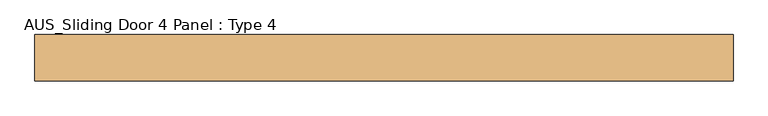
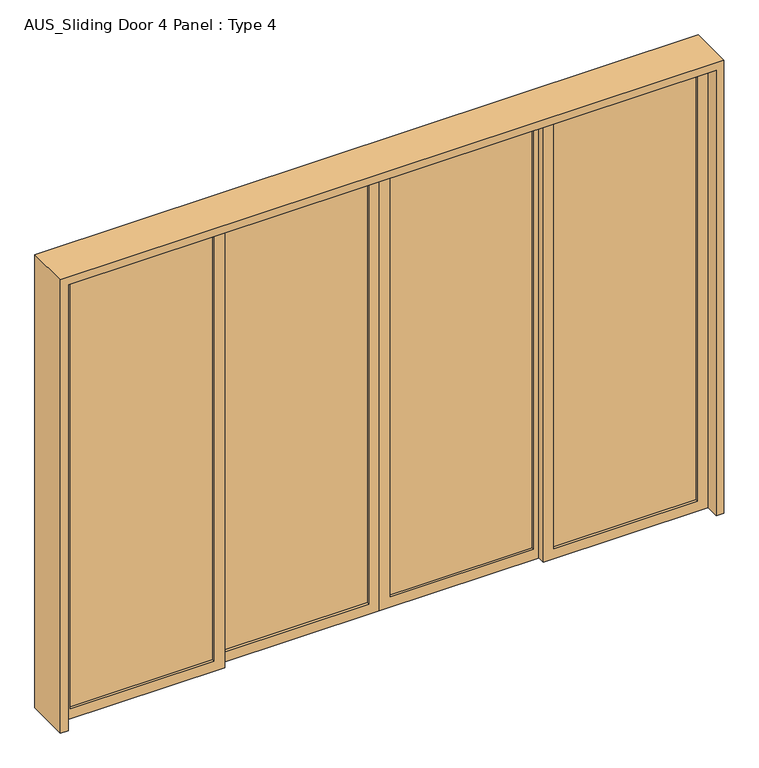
"""IFC4 building model written with IfcOpenShell, lengths in millimetres: door geometry, AUS_Sliding Door 4 Panel : Type 4."""

import ifcopenshell
import ifcopenshell.guid

model = None  # the IFC model being written
_history = None  # IfcOwnerHistory: only IFC2X3 demands one
_inside = {}  # id of a spatial element -> (the spatial element, [elements in it])
_under = {}  # id of a project, library or spatial element -> (it, [spatial elements below it])
_declared = {}  # id of a project -> (the project, [libraries it declares])
_typed = {}  # id of a type object -> (the type object, [elements of that type])
_made_of = {}  # id of a material, layer set ... -> (it, [elements and type objects made of it])


def new_model(schema):
    """Start an empty IFC model of exactly this schema.

    Asked for "IFC4X3", IfcOpenShell would pick the latest addendum, in which some entities
    have other attributes; the version numbers below select the first issue.
    IFC2X3 requires an IfcOwnerHistory on every rooted entity: one is made here for all.
    """
    global model, _history
    if schema == "IFC4X3":
        model = ifcopenshell.file(schema_version=(4, 3, 0, 0))
    else:
        model = ifcopenshell.file(schema=schema)
    _inside.clear()
    _under.clear()
    _declared.clear()
    _typed.clear()
    _made_of.clear()
    _history = None
    if model.schema == "IFC2X3":
        org = make("IfcOrganization", Name="unknown")
        user = make(
            "IfcPersonAndOrganization",
            ThePerson=make("IfcPerson", FamilyName="unknown"),
            TheOrganization=org,
        )
        app = make(
            "IfcApplication",
            ApplicationDeveloper=org,
            Version="unknown",
            ApplicationFullName="unknown",
            ApplicationIdentifier="unknown",
        )
        _history = make(
            "IfcOwnerHistory",
            OwningUser=user,
            OwningApplication=app,
            ChangeAction="ADDED",
            CreationDate=0,
        )
    return model


def make(cls, **values):
    """One entity of the class cls with the attributes given. An attribute that is None is left unset."""
    return model.create_entity(
        cls, **{name: value for name, value in values.items() if value is not None}
    )


def rooted(cls, **values):
    """An entity with a GlobalId (a new one), such as an element, a storey or a relation."""
    return make(cls, GlobalId=ifcopenshell.guid.new(), OwnerHistory=_history, **values)


def si_unit(unit_type, name, prefix=None):
    """IfcSIUnit, for example si_unit("LENGTHUNIT", "METRE", prefix="MILLI")."""
    return make("IfcSIUnit", UnitType=unit_type, Prefix=prefix, Name=name)


def assignment(units):
    """IfcUnitAssignment: the units of a project."""
    return None if units is None else make("IfcUnitAssignment", Units=units)


def point(xyz):
    """IfcCartesianPoint."""
    return None if xyz is None else make("IfcCartesianPoint", Coordinates=xyz)


def direction(xyz):
    """IfcDirection."""
    return None if xyz is None else make("IfcDirection", DirectionRatios=xyz)


def frame(location, z_axis=None, x_axis=None):
    """IfcAxis2Placement3D, a coordinate frame: its origin and axes. An axis left out is left unset."""
    return make(
        "IfcAxis2Placement3D",
        Location=point(location),
        Axis=direction(z_axis),
        RefDirection=direction(x_axis),
    )


def origin():
    """The frame at (0, 0, 0) with its axes left unset."""
    return frame((0.0, 0.0, 0.0))


def place(relative_to, where):
    """IfcLocalPlacement: puts the frame where relative to a parent placement (None: the world)."""
    return make(
        "IfcLocalPlacement", PlacementRelTo=relative_to, RelativePlacement=where
    )


def context(
    kind, dimensions, precision=None, world=None, true_north=None, identifier=None
):
    """IfcGeometricRepresentationContext, for example the 3D "Model" context."""
    return make(
        "IfcGeometricRepresentationContext",
        ContextIdentifier=identifier,
        ContextType=kind,
        CoordinateSpaceDimension=dimensions,
        Precision=precision,
        WorldCoordinateSystem=world,
        TrueNorth=true_north,
    )


def project(units=None, contexts=None):
    """IfcProject with its units and contexts."""
    return rooted(
        "IfcProject",
        Name="project",
        RepresentationContexts=contexts,
        UnitsInContext=assignment(units),
    )


def spatial(cls, under=None, at=None, **own):
    """A site, building, storey or space (cls), placed at a placement, below another one or the project."""
    s = rooted(cls, ObjectPlacement=at, **own)
    if under is not None:
        _under.setdefault(under.id(), (under, []))[1].append(s)
    return s


def polyline(points):
    """IfcPolyline through the points."""
    return make("IfcPolyline", Points=[point(p) for p in points])


def outline(outer, holes=None, kind="AREA"):
    """IfcArbitraryClosedProfileDef: a profile drawn as a closed curve; with holes, ...WithVoids."""
    if holes is None:
        return make("IfcArbitraryClosedProfileDef", ProfileType=kind, OuterCurve=outer)
    return make(
        "IfcArbitraryProfileDefWithVoids",
        ProfileType=kind,
        OuterCurve=outer,
        InnerCurves=holes,
    )


def extrude(swept, where, along, depth):
    """IfcExtrudedAreaSolid: the profile swept, set in the frame where, extruded along a direction by depth."""
    return make(
        "IfcExtrudedAreaSolid",
        SweptArea=swept,
        Position=where,
        ExtrudedDirection=direction(along),
        Depth=depth,
    )


def shape(context_of_items, identifier, shape_type, items):
    """IfcShapeRepresentation: the items that make up one representation, for example the "Body"."""
    return make(
        "IfcShapeRepresentation",
        ContextOfItems=context_of_items,
        RepresentationIdentifier=identifier,
        RepresentationType=shape_type,
        Items=items,
    )


def source(mapping_origin, context_of_items, identifier, shape_type, items):
    """IfcRepresentationMap: a shape defined once, which mapped items show again and again."""
    return make(
        "IfcRepresentationMap",
        MappingOrigin=mapping_origin,
        MappedRepresentation=shape(context_of_items, identifier, shape_type, items),
    )


def transform(
    local_origin,
    x_axis=None,
    y_axis=None,
    z_axis=None,
    scale=None,
    scale2=None,
    scale3=None,
    uniform=True,
):
    """IfcCartesianTransformationOperator3D, or its non-uniform kind. x_axis, y_axis, z_axis: its Axis1, 2, 3."""
    if uniform:
        return make(
            "IfcCartesianTransformationOperator3D",
            Axis1=direction(x_axis),
            Axis2=direction(y_axis),
            LocalOrigin=point(local_origin),
            Scale=scale,
            Axis3=direction(z_axis),
        )
    return make(
        "IfcCartesianTransformationOperator3DnonUniform",
        Axis1=direction(x_axis),
        Axis2=direction(y_axis),
        LocalOrigin=point(local_origin),
        Scale=scale,
        Axis3=direction(z_axis),
        Scale2=scale2,
        Scale3=scale3,
    )


def mapped(mapping_source, mapping_target):
    """IfcMappedItem: shows the shape of a source again, moved by a transform."""
    return make(
        "IfcMappedItem", MappingSource=mapping_source, MappingTarget=mapping_target
    )


def made_of(thing, what):
    """Note that an element or type object is made of a material, layer set ...; save() writes the relation."""
    if what is not None:
        _made_of.setdefault(what.id(), (what, []))[1].append(thing)
    return thing


def element(
    cls,
    number,
    at=None,
    inside=None,
    cuts=None,
    type_object=None,
    material=None,
    context=None,
    identifier="Body",
    shape_type=None,
    held_by="IfcProductDefinitionShape",
    body=None,
    shapes=None,
    **own,
):
    """One element of the class cls, such as IfcWall. Its Tag is "e" and its number.

    at: its placement. inside: the storey or other place that contains it. cuts: it is an
    opening in that element (IfcRelVoidsElement). A single representation is given by context,
    identifier, shape_type and body (its items); several are given by shapes. held_by: the class
    of the entity that holds the representations. save() writes the other relations.
    """
    e = rooted(cls, Tag="e%d" % number, ObjectPlacement=at, **own)
    if body is not None:
        shapes = [shape(context, identifier, shape_type, body)]
    if shapes is not None:
        e.Representation = make(held_by, Representations=shapes)
    if inside is not None:
        _inside.setdefault(inside.id(), (inside, []))[1].append(e)
    if cuts is not None:
        rooted(
            "IfcRelVoidsElement", RelatingBuildingElement=cuts, RelatedOpeningElement=e
        )
    if type_object is not None:
        _typed.setdefault(type_object.id(), (type_object, []))[1].append(e)
    return made_of(e, material)


def aggregate(whole, parts):
    """IfcRelAggregates: a whole, such as a stair, and the parts it consists of."""
    return rooted("IfcRelAggregates", RelatingObject=whole, RelatedObjects=parts)


def save(model, path):
    """Write the relations noted so far, then the file.

    IfcRelAggregates (storeys below a building ...), IfcRelContainedInSpatialStructure (elements
    in a storey), IfcRelDefinesByType, IfcRelAssociatesMaterial and IfcRelDeclares: one each for
    every whole, place, type object, material and project.
    """
    for whole, parts in _under.values():
        aggregate(whole, parts)
    for where, things in _inside.values():
        rooted(
            "IfcRelContainedInSpatialStructure",
            RelatedElements=things,
            RelatingStructure=where,
        )
    for kind, things in _typed.values():
        rooted("IfcRelDefinesByType", RelatedObjects=things, RelatingType=kind)
    for what, things in _made_of.values():
        rooted("IfcRelAssociatesMaterial", RelatedObjects=things, RelatingMaterial=what)
    for by, libraries in _declared.values():
        rooted("IfcRelDeclares", RelatingContext=by, RelatedDefinitions=libraries)
    model.write(path)


def aus_sliding_door_4_panel_type_4_3ae0efee(model_context):
    return source(origin(), model_context, "Body", "SweptSolid", [
        extrude(outline(polyline([(0.0, 1762.1580012), (2438.4, 1762.1580012), (2438.4, 910.2080012), (0.0, 910.2080012), (0.0, 1762.1580012)]), holes=[polyline([(55.0, 1707.1580012), (55.0, 965.2080012), (2383.4, 965.2080012), (2383.4, 1707.1580012), (55.0, 1707.1580012)])]), frame((0.0, -40.0, 0.0), z_axis=(0.0, 1.0, 0.0), x_axis=(0.0, 0.0, 1.0)), (0.0, 0.0, 1.0), 40.0),
        extrude(outline(polyline([(1707.1580012, -13.3333333), (1707.1580012, -26.6666667), (965.2080012, -26.6666667), (965.2080012, -13.3333333), (1707.1580012, -13.3333333)])), frame((0.0, 0.0, 55.0), z_axis=(0.0, 0.0, 1.0), x_axis=(1.0, 0.0, 0.0)), (0.0, 0.0, 1.0), 2328.4),
        extrude(outline(polyline([(0.0, 937.7080012), (2438.4, 937.7080012), (2438.4, 85.7580012), (0.0, 85.7580012), (0.0, 937.7080012)]), holes=[polyline([(55.0, 882.7080012), (55.0, 140.7580012), (2383.4, 140.7580012), (2383.4, 882.7080012), (55.0, 882.7080012)])]), frame((0.0, 0.0, 0.0), z_axis=(0.0, 1.0, 0.0), x_axis=(0.0, 0.0, 1.0)), (0.0, 0.0, 1.0), 40.0),
        extrude(outline(polyline([(882.7080012, 26.6666667), (882.7080012, 13.3333333), (140.7580012, 13.3333333), (140.7580012, 26.6666667), (882.7080012, 26.6666667)])), frame((0.0, 0.0, 55.0), z_axis=(0.0, 0.0, 1.0), x_axis=(1.0, 0.0, 0.0)), (0.0, 0.0, 1.0), 2328.4),
        extrude(outline(polyline([(0.0, 85.7580012), (2438.4, 85.7580012), (2438.4, -766.1919988), (0.0, -766.1919988), (0.0, 85.7580012)]), holes=[polyline([(55.0, 30.7580012), (55.0, -711.1919988), (2383.4, -711.1919988), (2383.4, 30.7580012), (55.0, 30.7580012)])]), frame((0.0, 0.0, 0.0), z_axis=(0.0, 1.0, 0.0), x_axis=(0.0, 0.0, 1.0)), (0.0, 0.0, 1.0), 40.0),
        extrude(outline(polyline([(30.7580012, 26.6666667), (30.7580012, 13.3333333), (-711.1919988, 13.3333333), (-711.1919988, 26.6666667), (30.7580012, 26.6666667)])), frame((0.0, 0.0, 55.0), z_axis=(0.0, 0.0, 1.0), x_axis=(1.0, 0.0, 0.0)), (0.0, 0.0, 1.0), 2328.4),
        extrude(outline(polyline([(0.0, -738.6919988), (2438.4, -738.6919988), (2438.4, -1590.6419988), (0.0, -1590.6419988), (0.0, -738.6919988)]), holes=[polyline([(55.0, -793.6919988), (55.0, -1535.6419988), (2383.4, -1535.6419988), (2383.4, -793.6919988), (55.0, -793.6919988)])]), frame((0.0, -40.0, 0.0), z_axis=(0.0, 1.0, 0.0), x_axis=(0.0, 0.0, 1.0)), (0.0, 0.0, 1.0), 40.0),
        extrude(outline(polyline([(-793.6919988, -13.3333333), (-793.6919988, -26.6666667), (-1535.6419988, -26.6666667), (-1535.6419988, -13.3333333), (-793.6919988, -13.3333333)])), frame((0.0, 0.0, 55.0), z_axis=(0.0, 0.0, 1.0), x_axis=(1.0, 0.0, 0.0)), (0.0, 0.0, 1.0), 2328.4),
        extrude(outline(polyline([(0.0, -1630.6419988), (0.0, -1590.6419988), (2438.4, -1590.6419988), (2438.4, 1762.1580012), (0.0, 1762.1580012), (0.0, 1802.1580012), (2478.4, 1802.1580012), (2478.4, -1630.6419988), (0.0, -1630.6419988)])), frame((0.0, -114.3, 0.0), z_axis=(0.0, 1.0, 0.0), x_axis=(0.0, 0.0, 1.0)), (0.0, 0.0, 1.0), 228.6),
    ])


if __name__ == "__main__":
    model = new_model("IFC4")
    model_context = context("Model", 3, world=origin())
    ifc_project = project(units=[si_unit("LENGTHUNIT", "METRE", prefix="MILLI")], contexts=[model_context])
    site = spatial("IfcSite", under=ifc_project)
    building = spatial("IfcBuilding", under=site)
    placement = place(None, origin())
    aus_sliding_door_4_panel_type_4_shape = aus_sliding_door_4_panel_type_4_3ae0efee(model_context)
    element("IfcDoor", 1, ObjectType="AUS_Sliding Door 4 Panel : Type 4", at=placement, inside=building, context=model_context, shape_type="MappedRepresentation", body=[
        mapped(aus_sliding_door_4_panel_type_4_shape, transform((0.0, 0.0, 0.0), x_axis=(1.0, 0.0, 0.0), y_axis=(0.0, 1.0, 0.0), z_axis=(0.0, 0.0, 1.0))),
    ])
    save(model, "model.ifc")
